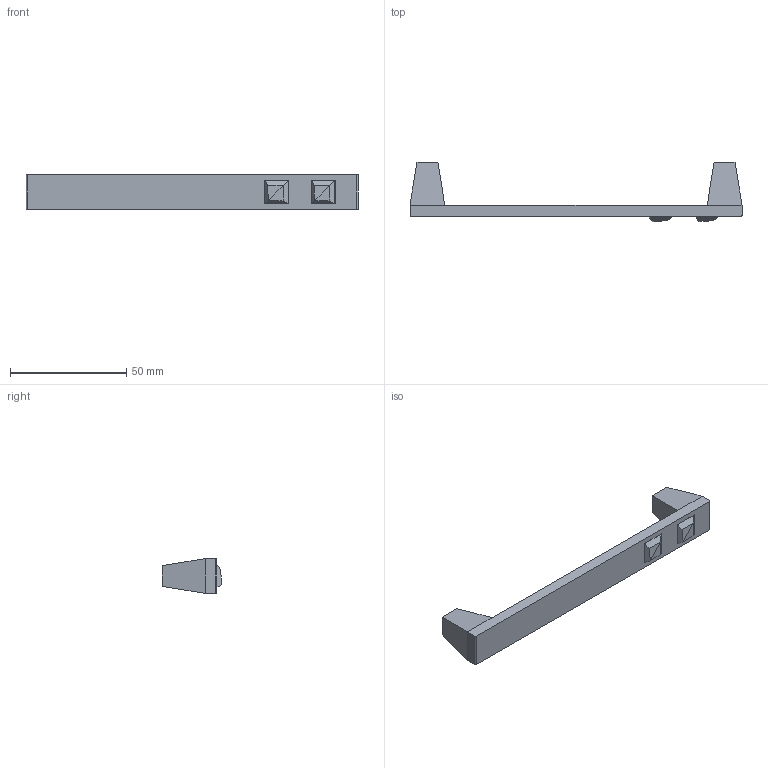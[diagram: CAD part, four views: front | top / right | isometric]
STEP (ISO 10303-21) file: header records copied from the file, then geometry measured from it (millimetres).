
FILE_DESCRIPTION( ( '' ), '1' );
FILE_NAME( 'C:/Documents and Settings/Sachin/Desktop/Sheet 10_1/stp/ 9113692.stp', '2013-10-22T08:38:05', ( '' ), ( '' ), ' ', ' ', ' ' );
FILE_SCHEMA( ( 'CONFIG_CONTROL_DESIGN' ) );
Length unit declared in the file: millimetre
Products named in the file (1): 1
Bounding box: 143 x 25.5 x 15 mm (x, y, z)
Volume: 16144.5 mm3; surface area: 7755.1 mm2
Topology: 1 solids, 1 shells, 54 faces, 118 edges, 72 vertices
Faces by surface type: plane 48, cylinder 6
Entity records: 1478 total; most frequent: CARTESIAN_POINT 245, DIRECTION 240, ORIENTED_EDGE 236, EDGE_CURVE 118, LINE 106, VECTOR 106, VERTEX_POINT 72, AXIS2_PLACEMENT_3D 67
